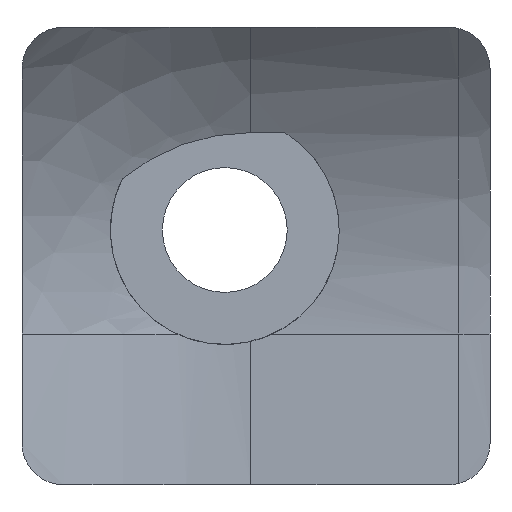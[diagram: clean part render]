
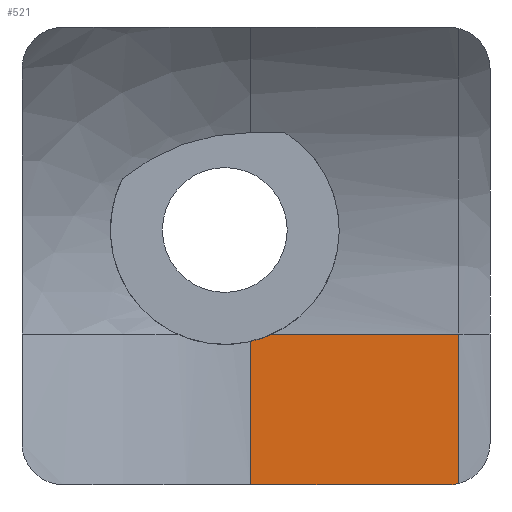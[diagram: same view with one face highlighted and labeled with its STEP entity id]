
A CAD part, front view. The second image highlights one B-rep face of the part: STEP entity #521.
In plain terms, the highlighted planar face has unit normal (0, -1, 0).
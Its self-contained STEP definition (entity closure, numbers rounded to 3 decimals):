
#22 = VERTEX_POINT('',#23);
#23 = CARTESIAN_POINT('',(-70.,21.3,75.858));
#43 = CYLINDRICAL_SURFACE('',#44,8.);
#44 = AXIS2_PLACEMENT_3D('',#45,#46,#47);
#45 = CARTESIAN_POINT('',(-70.,13.3,10.));
#46 = DIRECTION('',(0.,0.,1.));
#47 = DIRECTION('',(-1.,-0.,0.));
#66 = CYLINDRICAL_SURFACE('',#67,2.2);
#67 = AXIS2_PLACEMENT_3D('',#68,#69,#70);
#68 = CARTESIAN_POINT('',(-70.5,20.3,78.));
#69 = DIRECTION('',(0.,1.,0.));
#70 = DIRECTION('',(0.,-0.,1.));
#200 = VERTEX_POINT('',#201);
#201 = CARTESIAN_POINT('',(-70.,21.3,73.1));
#216 = PLANE('',#217);
#217 = AXIS2_PLACEMENT_3D('',#218,#219,#220);
#218 = CARTESIAN_POINT('',(-65.4,10.,73.1));
#219 = DIRECTION('',(0.,-0.,1.));
#220 = DIRECTION('',(-1.,0.,0.));
#228 = EDGE_CURVE('',#200,#22,#229,.T.);
#229 = SURFACE_CURVE('',#230,(#234,#241),.PCURVE_S1.);
#230 = LINE('',#231,#232);
#231 = CARTESIAN_POINT('',(-70.,21.3,10.));
#232 = VECTOR('',#233,1.);
#233 = DIRECTION('',(0.,0.,1.));
#234 = PCURVE('',#43,#235);
#235 = DEFINITIONAL_REPRESENTATION('',(#236),#240);
#236 = LINE('',#237,#238);
#237 = CARTESIAN_POINT('',(-1.571,0.));
#238 = VECTOR('',#239,1.);
#239 = DIRECTION('',(-0.,1.));
#240 = ( GEOMETRIC_REPRESENTATION_CONTEXT(2) 
PARAMETRIC_REPRESENTATION_CONTEXT() REPRESENTATION_CONTEXT('2D SPACE',''
  ) );
#241 = PCURVE('',#242,#247);
#242 = PLANE('',#243);
#243 = AXIS2_PLACEMENT_3D('',#244,#245,#246);
#244 = CARTESIAN_POINT('',(-78.,21.3,10.));
#245 = DIRECTION('',(0.,1.,0.));
#246 = DIRECTION('',(0.,0.,1.));
#247 = DEFINITIONAL_REPRESENTATION('',(#248),#252);
#248 = LINE('',#249,#250);
#249 = CARTESIAN_POINT('',(0.,8.));
#250 = VECTOR('',#251,1.);
#251 = DIRECTION('',(1.,0.));
#252 = ( GEOMETRIC_REPRESENTATION_CONTEXT(2) 
PARAMETRIC_REPRESENTATION_CONTEXT() REPRESENTATION_CONTEXT('2D SPACE',''
  ) );
#260 = VERTEX_POINT('',#261);
#261 = CARTESIAN_POINT('',(-69.583,21.3,76.));
#315 = CYLINDRICAL_SURFACE('',#316,8.);
#316 = AXIS2_PLACEMENT_3D('',#317,#318,#319);
#317 = CARTESIAN_POINT('',(-78.,13.3,76.));
#318 = DIRECTION('',(1.,0.,0.));
#319 = DIRECTION('',(-0.,1.,0.));
#500 = EDGE_CURVE('',#260,#22,#501,.T.);
#501 = SURFACE_CURVE('',#502,(#507,#514),.PCURVE_S1.);
#502 = CIRCLE('',#503,2.2);
#503 = AXIS2_PLACEMENT_3D('',#504,#505,#506);
#504 = CARTESIAN_POINT('',(-70.5,21.3,78.));
#505 = DIRECTION('',(0.,1.,0.));
#506 = DIRECTION('',(0.,-0.,1.));
#507 = PCURVE('',#66,#508);
#508 = DEFINITIONAL_REPRESENTATION('',(#509),#513);
#509 = LINE('',#510,#511);
#510 = CARTESIAN_POINT('',(0.,1.));
#511 = VECTOR('',#512,1.);
#512 = DIRECTION('',(1.,0.));
#513 = ( GEOMETRIC_REPRESENTATION_CONTEXT(2) 
PARAMETRIC_REPRESENTATION_CONTEXT() REPRESENTATION_CONTEXT('2D SPACE',''
  ) );
#514 = PCURVE('',#242,#515);
#515 = DEFINITIONAL_REPRESENTATION('',(#516),#520);
#516 = CIRCLE('',#517,2.2);
#517 = AXIS2_PLACEMENT_2D('',#518,#519);
#518 = CARTESIAN_POINT('',(68.,7.5));
#519 = DIRECTION('',(1.,0.));
#520 = ( GEOMETRIC_REPRESENTATION_CONTEXT(2) 
PARAMETRIC_REPRESENTATION_CONTEXT() REPRESENTATION_CONTEXT('2D SPACE',''
  ) );
#521 = ADVANCED_FACE('',(#522),#242,.F.);
#522 = FACE_BOUND('',#523,.F.);
#523 = EDGE_LOOP('',(#524,#545,#546,#547,#570,#598));
#524 = ORIENTED_EDGE('',*,*,#525,.F.);
#525 = EDGE_CURVE('',#200,#526,#528,.T.);
#526 = VERTEX_POINT('',#527);
#527 = CARTESIAN_POINT('',(-66.2,21.3,73.1));
#528 = SURFACE_CURVE('',#529,(#533,#539),.PCURVE_S1.);
#529 = LINE('',#530,#531);
#530 = CARTESIAN_POINT('',(-71.7,21.3,73.1));
#531 = VECTOR('',#532,1.);
#532 = DIRECTION('',(1.,0.,-0.));
#533 = PCURVE('',#242,#534);
#534 = DEFINITIONAL_REPRESENTATION('',(#535),#538);
#535 = B_SPLINE_CURVE_WITH_KNOTS('',1,(#536,#537),.UNSPECIFIED.,.F.,.F.,
  (2,2),(1.7,5.5),.PIECEWISE_BEZIER_KNOTS.);
#536 = CARTESIAN_POINT('',(63.1,8.));
#537 = CARTESIAN_POINT('',(63.1,11.8));
#538 = ( GEOMETRIC_REPRESENTATION_CONTEXT(2) 
PARAMETRIC_REPRESENTATION_CONTEXT() REPRESENTATION_CONTEXT('2D SPACE',''
  ) );
#539 = PCURVE('',#216,#540);
#540 = DEFINITIONAL_REPRESENTATION('',(#541),#544);
#541 = B_SPLINE_CURVE_WITH_KNOTS('',1,(#542,#543),.UNSPECIFIED.,.F.,.F.,
  (2,2),(1.7,5.5),.PIECEWISE_BEZIER_KNOTS.);
#542 = CARTESIAN_POINT('',(4.6,-11.3));
#543 = CARTESIAN_POINT('',(0.8,-11.3));
#544 = ( GEOMETRIC_REPRESENTATION_CONTEXT(2) 
PARAMETRIC_REPRESENTATION_CONTEXT() REPRESENTATION_CONTEXT('2D SPACE',''
  ) );
#545 = ORIENTED_EDGE('',*,*,#228,.T.);
#546 = ORIENTED_EDGE('',*,*,#500,.F.);
#547 = ORIENTED_EDGE('',*,*,#548,.T.);
#548 = EDGE_CURVE('',#260,#549,#551,.T.);
#549 = VERTEX_POINT('',#550);
#550 = CARTESIAN_POINT('',(-66.,21.3,76.));
#551 = SURFACE_CURVE('',#552,(#556,#563),.PCURVE_S1.);
#552 = LINE('',#553,#554);
#553 = CARTESIAN_POINT('',(-78.,21.3,76.));
#554 = VECTOR('',#555,1.);
#555 = DIRECTION('',(1.,0.,0.));
#556 = PCURVE('',#242,#557);
#557 = DEFINITIONAL_REPRESENTATION('',(#558),#562);
#558 = LINE('',#559,#560);
#559 = CARTESIAN_POINT('',(66.,0.));
#560 = VECTOR('',#561,1.);
#561 = DIRECTION('',(0.,1.));
#562 = ( GEOMETRIC_REPRESENTATION_CONTEXT(2) 
PARAMETRIC_REPRESENTATION_CONTEXT() REPRESENTATION_CONTEXT('2D SPACE',''
  ) );
#563 = PCURVE('',#315,#564);
#564 = DEFINITIONAL_REPRESENTATION('',(#565),#569);
#565 = LINE('',#566,#567);
#566 = CARTESIAN_POINT('',(0.,0.));
#567 = VECTOR('',#568,1.);
#568 = DIRECTION('',(0.,1.));
#569 = ( GEOMETRIC_REPRESENTATION_CONTEXT(2) 
PARAMETRIC_REPRESENTATION_CONTEXT() REPRESENTATION_CONTEXT('2D SPACE',''
  ) );
#570 = ORIENTED_EDGE('',*,*,#571,.F.);
#571 = EDGE_CURVE('',#572,#549,#574,.T.);
#572 = VERTEX_POINT('',#573);
#573 = CARTESIAN_POINT('',(-66.,21.3,73.125));
#574 = SURFACE_CURVE('',#575,(#579,#586),.PCURVE_S1.);
#575 = LINE('',#576,#577);
#576 = CARTESIAN_POINT('',(-66.,21.3,10.));
#577 = VECTOR('',#578,1.);
#578 = DIRECTION('',(0.,0.,1.));
#579 = PCURVE('',#242,#580);
#580 = DEFINITIONAL_REPRESENTATION('',(#581),#585);
#581 = LINE('',#582,#583);
#582 = CARTESIAN_POINT('',(0.,12.));
#583 = VECTOR('',#584,1.);
#584 = DIRECTION('',(1.,0.));
#585 = ( GEOMETRIC_REPRESENTATION_CONTEXT(2) 
PARAMETRIC_REPRESENTATION_CONTEXT() REPRESENTATION_CONTEXT('2D SPACE',''
  ) );
#586 = PCURVE('',#587,#592);
#587 = CYLINDRICAL_SURFACE('',#588,8.);
#588 = AXIS2_PLACEMENT_3D('',#589,#590,#591);
#589 = CARTESIAN_POINT('',(-66.,13.3,10.));
#590 = DIRECTION('',(0.,0.,1.));
#591 = DIRECTION('',(1.,0.,-0.));
#592 = DEFINITIONAL_REPRESENTATION('',(#593),#597);
#593 = LINE('',#594,#595);
#594 = CARTESIAN_POINT('',(1.571,0.));
#595 = VECTOR('',#596,1.);
#596 = DIRECTION('',(0.,1.));
#597 = ( GEOMETRIC_REPRESENTATION_CONTEXT(2) 
PARAMETRIC_REPRESENTATION_CONTEXT() REPRESENTATION_CONTEXT('2D SPACE',''
  ) );
#598 = ORIENTED_EDGE('',*,*,#599,.T.);
#599 = EDGE_CURVE('',#572,#526,#600,.T.);
#600 = SURFACE_CURVE('',#601,(#606,#613),.PCURVE_S1.);
#601 = CIRCLE('',#602,0.8);
#602 = AXIS2_PLACEMENT_3D('',#603,#604,#605);
#603 = CARTESIAN_POINT('',(-66.2,21.3,73.9));
#604 = DIRECTION('',(0.,1.,0.));
#605 = DIRECTION('',(1.,0.,-0.));
#606 = PCURVE('',#242,#607);
#607 = DEFINITIONAL_REPRESENTATION('',(#608),#612);
#608 = CIRCLE('',#609,0.8);
#609 = AXIS2_PLACEMENT_2D('',#610,#611);
#610 = CARTESIAN_POINT('',(63.9,11.8));
#611 = DIRECTION('',(0.,1.));
#612 = ( GEOMETRIC_REPRESENTATION_CONTEXT(2) 
PARAMETRIC_REPRESENTATION_CONTEXT() REPRESENTATION_CONTEXT('2D SPACE',''
  ) );
#613 = PCURVE('',#614,#619);
#614 = CYLINDRICAL_SURFACE('',#615,0.8);
#615 = AXIS2_PLACEMENT_3D('',#616,#617,#618);
#616 = CARTESIAN_POINT('',(-66.2,10.,73.9));
#617 = DIRECTION('',(0.,1.,0.));
#618 = DIRECTION('',(1.,0.,-0.));
#619 = DEFINITIONAL_REPRESENTATION('',(#620),#624);
#620 = LINE('',#621,#622);
#621 = CARTESIAN_POINT('',(0.,11.3));
#622 = VECTOR('',#623,1.);
#623 = DIRECTION('',(1.,0.));
#624 = ( GEOMETRIC_REPRESENTATION_CONTEXT(2) 
PARAMETRIC_REPRESENTATION_CONTEXT() REPRESENTATION_CONTEXT('2D SPACE',''
  ) );
